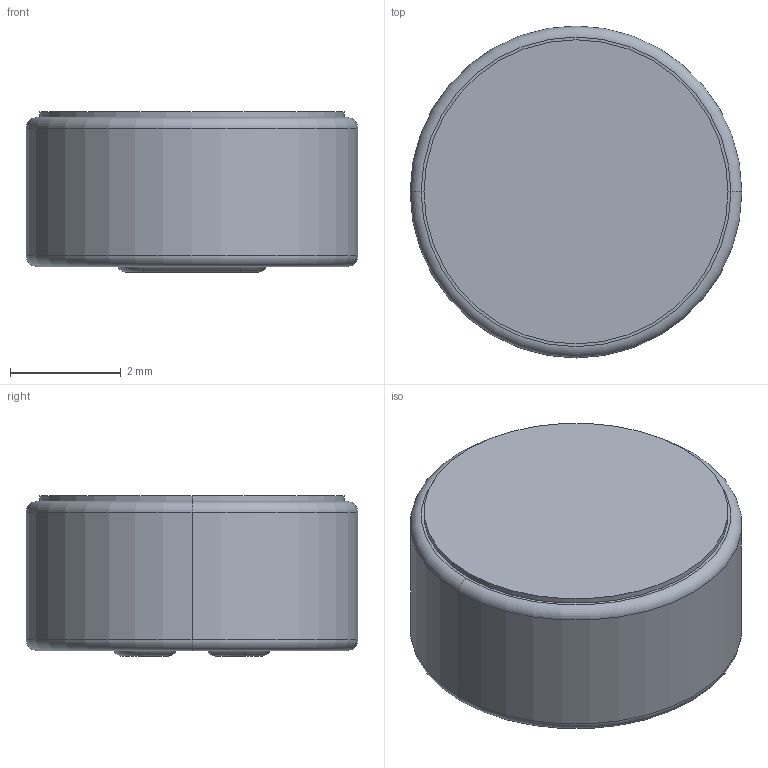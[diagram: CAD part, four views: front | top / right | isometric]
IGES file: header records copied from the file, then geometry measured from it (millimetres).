
Global section: file name: No Iges File Name specified; native system: Autodesk Inventor 2011; preprocessor: AutoDesk Inventor Iges Exporter R2011; author: Dunn; date: 20120111.082155; units: millimetre
Bounding box: 6 x 6 x 2.9 mm (x, y, z)
Volume: 19.4 mm3; surface area: 200.8 mm2
Topology: 1 solids, 2 shells, 66 faces, 144 edges, 90 vertices
Faces by surface type: plane 20, revolution 18, cylinder 14, torus 10, bspline 4
